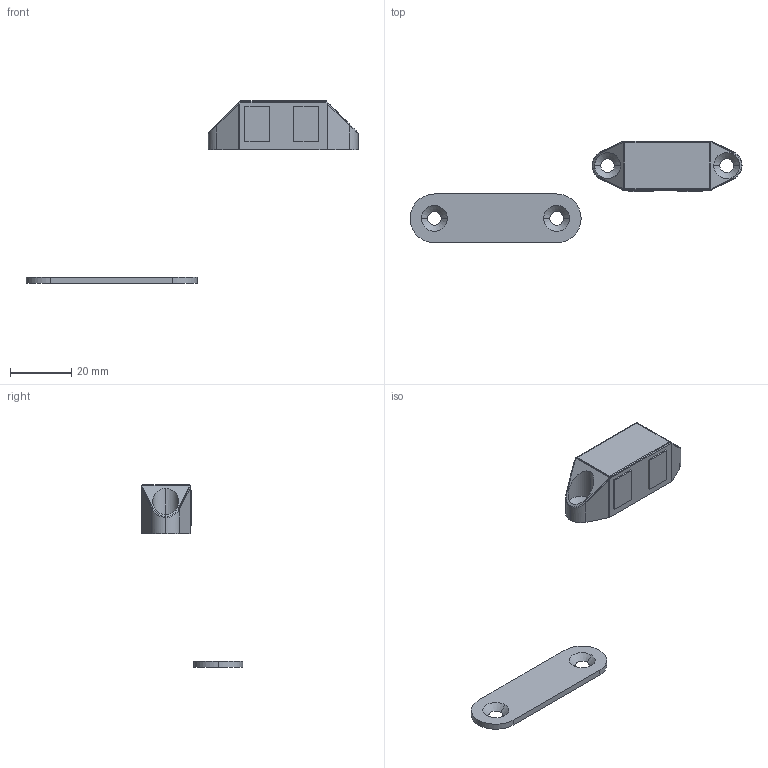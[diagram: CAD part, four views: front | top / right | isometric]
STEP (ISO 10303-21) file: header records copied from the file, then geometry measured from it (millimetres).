
FILE_DESCRIPTION((''),'2;1');
FILE_NAME('6470.07.stp','2017-06-08T15:43:41',(''),(''),'Mechanical Desktop 2006','Mechanical Desktop 2006',', , ');
FILE_SCHEMA(('AUTOMOTIVE_DESIGN { 1 2 10303 214 0 1 1 1 }'));
Length unit declared in the file: millimetre
Products named in the file (3): 6470.07; TEIL2; TEIL3
Assembly tree (2 placements, depth 2):
  6470.07
    TEIL2
    TEIL3
Bounding box: 108.62 x 33.2 x 59.71 mm (x, y, z)
Volume: 10573.2 mm3; surface area: 5168.7 mm2
Topology: 2 solids, 2 shells, 90 faces, 220 edges, 132 vertices
Faces by surface type: cylinder 48, plane 24, cone 8, sphere 8, bspline 2
Entity records: 2888 total; most frequent: CARTESIAN_POINT 544, DIRECTION 504, ORIENTED_EDGE 432, EDGE_CURVE 216, AXIS2_PLACEMENT_3D 197, VERTEX_POINT 132, VECTOR 110, LINE 110
